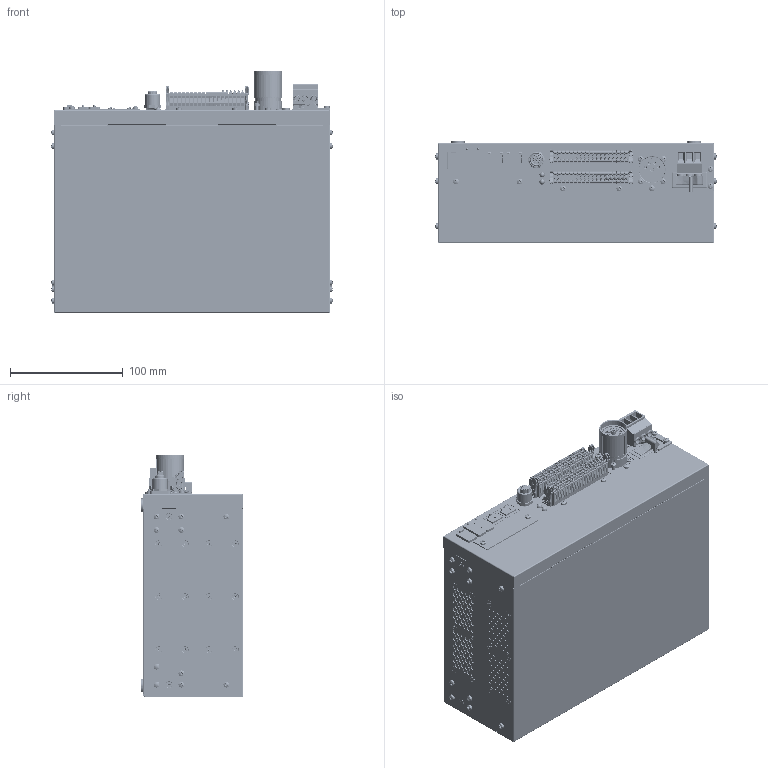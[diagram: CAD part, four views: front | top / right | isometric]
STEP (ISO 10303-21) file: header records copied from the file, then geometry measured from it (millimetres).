
FILE_DESCRIPTION (( 'STEP AP203' ), '1' );
FILE_NAME ('5kw眻霜婦釐芞2.STEP', '2024-10-25T16:46:47', ( 'hello' ), ( '' ), 'SwSTEP 2.0', 'SolidWorks 2018', '' );
FILE_SCHEMA (( 'CONFIG_CONTROL_DESIGN' ));
Products named in the file (2): 5kw眻霜婦釐芞2
Bounding box: 249.74 x 91 x 214.43 mm (x, y, z)
Surface area: 213771.9 mm2 (no closed solid volume)
Topology: 0 solids, 107 shells, 23883 faces, 62990 edges, 39347 vertices
Faces by surface type: plane 13814, cylinder 5163, bspline 2608, cone 2197, torus 89, sphere 12
Full cylindrical faces by diameter (mm): 0.647 x12
Entity records: 811849 total; most frequent: CARTESIAN_POINT 259658, ORIENTED_EDGE 121323, DIRECTION 101985, EDGE_CURVE 62188, LINE 39457, VECTOR 39457, VERTEX_POINT 39348, AXIS2_PLACEMENT_3D 31264
